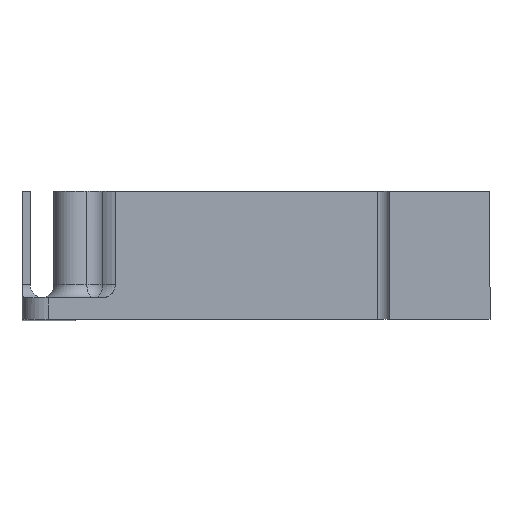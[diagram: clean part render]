
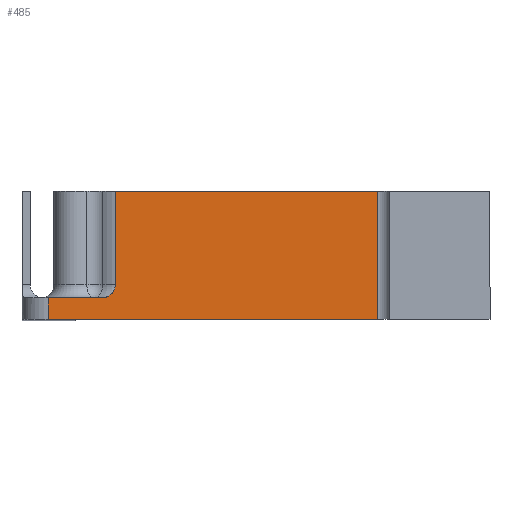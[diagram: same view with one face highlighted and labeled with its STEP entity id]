
A CAD part, top view. The second image highlights one B-rep face of the part: STEP entity #485.
In plain terms, the highlighted planar face has unit normal (0, 0, 1).
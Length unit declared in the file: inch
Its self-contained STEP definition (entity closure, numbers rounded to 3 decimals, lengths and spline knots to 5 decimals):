
#31 = CARTESIAN_POINT ( 'NONE',  ( -3.55333, -0.00635, 2.75067 ) ) ;
#79 = VERTEX_POINT ( 'NONE', #657 ) ;
#191 = EDGE_CURVE ( 'NONE', #79, #673, #611, .T. ) ;
#197 = CARTESIAN_POINT ( 'NONE',  ( -6.01081, 0.95, 2.75067 ) ) ;
#239 = CARTESIAN_POINT ( 'NONE',  ( -6.01081, 0.15465, 2.75067 ) ) ;
#279 = DIRECTION ( 'NONE',  ( -1., 0., 0. ) ) ;
#285 = VECTOR ( 'NONE', #1420, 39.37008 ) ;
#295 = AXIS2_PLACEMENT_3D ( 'NONE', #527, #797, #1353 ) ;
#298 = EDGE_CURVE ( 'NONE', #1687, #673, #1161, .T. ) ;
#371 = VECTOR ( 'NONE', #1291, 39.37008 ) ;
#380 = CARTESIAN_POINT ( 'NONE',  ( 0., 0.95, 2.75067 ) ) ;
#416 = FACE_OUTER_BOUND ( 'NONE', #914, .T. ) ;
#419 = EDGE_CURVE ( 'NONE', #79, #896, #1066, .T. ) ;
#424 = ORIENTED_EDGE ( 'NONE', *, *, #1510, .T. ) ;
#485 = ADVANCED_FACE ( 'NONE', ( #416 ), #1227, .T. ) ;
#506 = DIRECTION ( 'NONE',  ( 0., 1., 0. ) ) ;
#527 = CARTESIAN_POINT ( 'NONE',  ( -5.61081, 0.25465, 2.75067 ) ) ;
#528 = DIRECTION ( 'NONE',  ( -1., 0., 0. ) ) ;
#564 = VECTOR ( 'NONE', #506, 39.37008 ) ;
#578 = ORIENTED_EDGE ( 'NONE', *, *, #1775, .T. ) ;
#595 = CARTESIAN_POINT ( 'NONE',  ( 0., 0.15465, 2.75067 ) ) ;
#611 = CIRCLE ( 'NONE', #295, 0.1 ) ;
#641 = VERTEX_POINT ( 'NONE', #1445 ) ;
#657 = CARTESIAN_POINT ( 'NONE',  ( -5.51081, 0.25465, 2.75067 ) ) ;
#673 = VERTEX_POINT ( 'NONE', #717 ) ;
#692 = ORIENTED_EDGE ( 'NONE', *, *, #419, .F. ) ;
#716 = ORIENTED_EDGE ( 'NONE', *, *, #1246, .F. ) ;
#717 = CARTESIAN_POINT ( 'NONE',  ( -5.61081, 0.15465, 2.75067 ) ) ;
#753 = LINE ( 'NONE', #197, #371 ) ;
#772 = CARTESIAN_POINT ( 'NONE',  ( -3.55333, 0.95, 2.75067 ) ) ;
#782 = CARTESIAN_POINT ( 'NONE',  ( -5.51081, 0.95, 2.75067 ) ) ;
#797 = DIRECTION ( 'NONE',  ( 0., 0., -1. ) ) ;
#807 = ORIENTED_EDGE ( 'NONE', *, *, #1243, .T. ) ;
#849 = VECTOR ( 'NONE', #279, 39.37008 ) ;
#872 = DIRECTION ( 'NONE',  ( 1., 0., 0. ) ) ;
#896 = VERTEX_POINT ( 'NONE', #782 ) ;
#914 = EDGE_LOOP ( 'NONE', ( #807, #716, #424, #578, #692, #1356, #1628 ) ) ;
#965 = DIRECTION ( 'NONE',  ( 0., 0., 1. ) ) ;
#970 = DIRECTION ( 'NONE',  ( 1., 0., 0. ) ) ;
#993 = VERTEX_POINT ( 'NONE', #31 ) ;
#1055 = CARTESIAN_POINT ( 'NONE',  ( -3.55333, -0.00635, 2.75067 ) ) ;
#1066 = LINE ( 'NONE', #1591, #564 ) ;
#1161 = LINE ( 'NONE', #595, #1474 ) ;
#1227 = PLANE ( 'NONE',  #1313 ) ;
#1243 = EDGE_CURVE ( 'NONE', #1687, #641, #753, .T. ) ;
#1246 = EDGE_CURVE ( 'NONE', #993, #641, #1308, .T. ) ;
#1269 = CARTESIAN_POINT ( 'NONE',  ( -3.55333, 0.95, 2.75067 ) ) ;
#1291 = DIRECTION ( 'NONE',  ( 0., -1., 0. ) ) ;
#1308 = LINE ( 'NONE', #1055, #1698 ) ;
#1313 = AXIS2_PLACEMENT_3D ( 'NONE', #1385, #965, #970 ) ;
#1350 = VERTEX_POINT ( 'NONE', #772 ) ;
#1353 = DIRECTION ( 'NONE',  ( 1., 0., 0. ) ) ;
#1356 = ORIENTED_EDGE ( 'NONE', *, *, #191, .T. ) ;
#1371 = LINE ( 'NONE', #1269, #285 ) ;
#1385 = CARTESIAN_POINT ( 'NONE',  ( 0., 0.95, 2.75067 ) ) ;
#1420 = DIRECTION ( 'NONE',  ( 0., 1., 0. ) ) ;
#1445 = CARTESIAN_POINT ( 'NONE',  ( -6.01081, -0.00635, 2.75067 ) ) ;
#1474 = VECTOR ( 'NONE', #872, 39.37008 ) ;
#1510 = EDGE_CURVE ( 'NONE', #993, #1350, #1371, .T. ) ;
#1591 = CARTESIAN_POINT ( 'NONE',  ( -5.51081, -0.56947, 2.75067 ) ) ;
#1616 = LINE ( 'NONE', #380, #849 ) ;
#1628 = ORIENTED_EDGE ( 'NONE', *, *, #298, .F. ) ;
#1687 = VERTEX_POINT ( 'NONE', #239 ) ;
#1698 = VECTOR ( 'NONE', #528, 39.37008 ) ;
#1775 = EDGE_CURVE ( 'NONE', #1350, #896, #1616, .T. ) ;
